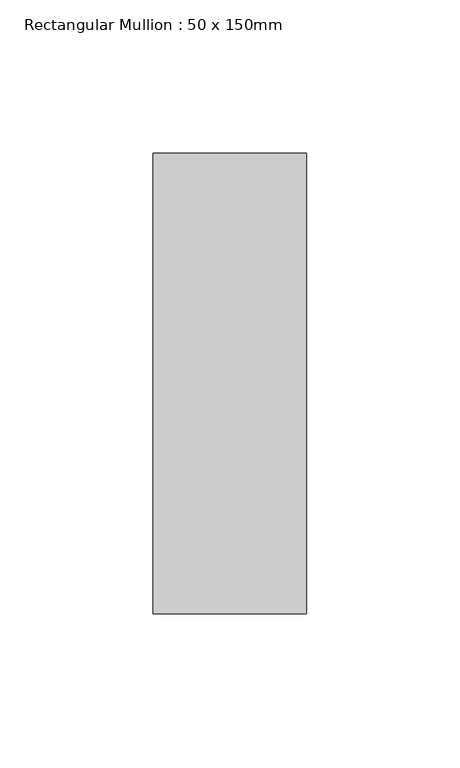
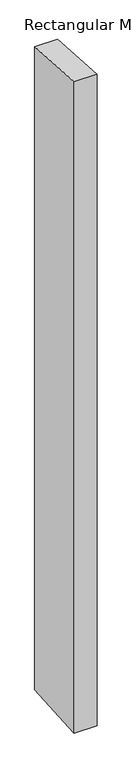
"""IFC4 building model written with IfcOpenShell, lengths in millimetres: member geometry, Rectangular Mullion : 50 x 150mm."""

from ifc_helpers import new_model, si_unit, origin, place, context, project, spatial, faceted_brep, source, transform, mapped, element, save


def rectangular_mullion_50_x_150mm_32bfd31b(model_context):
    return source(origin(), model_context, "Body", "Brep", [
        faceted_brep([(-50.0, 75.0, -4.8493549), (0.0, 75.0, -4.7449078), (0.0, 75.0, -1495.2550922), (-50.0, 75.0, -1495.1506451), (-50.0, -75.0, 4.6404607), (-50.0, -75.0, -1504.6404607), (0.0, -75.0, 4.7449078), (0.0, -75.0, -1504.7449078)], [[[0, 1, 2, 3]], [[4, 0, 3, 5]], [[6, 4, 5, 7]], [[1, 6, 7, 2]], [[1, 0, 4, 6]], [[2, 7, 5, 3]]]),
    ])


if __name__ == "__main__":
    model = new_model("IFC4")
    model_context = context("Model", 3, world=origin())
    ifc_project = project(units=[si_unit("LENGTHUNIT", "METRE", prefix="MILLI")], contexts=[model_context])
    site = spatial("IfcSite", under=ifc_project)
    building = spatial("IfcBuilding", under=site)
    placement = place(None, origin())
    rectangular_mullion_50_x_150mm_shape = rectangular_mullion_50_x_150mm_32bfd31b(model_context)
    element("IfcMember", 1, ObjectType="Rectangular Mullion : 50 x 150mm", at=placement, inside=building, context=model_context, shape_type="MappedRepresentation", body=[
        mapped(rectangular_mullion_50_x_150mm_shape, transform((0.0, 0.0, 0.0), x_axis=(1.0, 0.0, 0.0), y_axis=(0.0, 1.0, 0.0), z_axis=(0.0, 0.0, 1.0))),
    ])
    save(model, "model.ifc")
